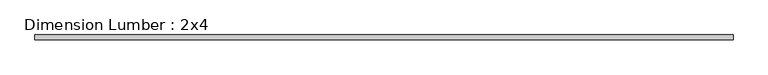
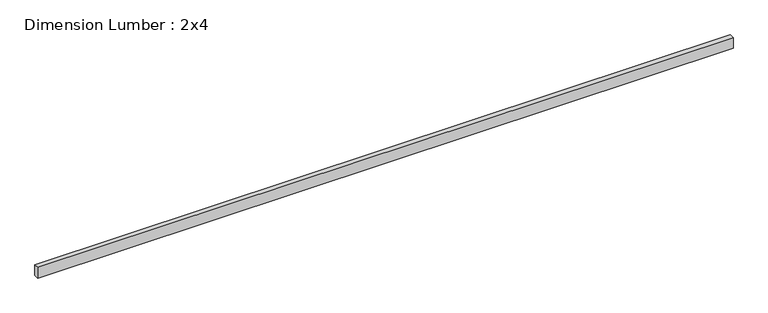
"""IFC4 building model written with IfcOpenShell, lengths in millimetres: beam geometry, Dimension Lumber : 2x4."""

from ifc_helpers import new_model, si_unit, frame, origin, place, context, project, spatial, polyline, outline, extrude, source, transform, mapped, element, save


def dimension_lumber_2x4_0db79c5e(model_context):
    return source(origin(), model_context, "Body", "SweptSolid", [
        extrude(outline(polyline([(2755.9, 19.05), (2755.9, -19.05), (-2755.9, -19.05), (-2755.9, 19.05), (2755.9, 19.05)])), frame((0.0, 0.0, -44.45), z_axis=(0.0, 0.0, 1.0), x_axis=(1.0, 0.0, 0.0)), (0.0, 0.0, 1.0), 88.9),
    ])


if __name__ == "__main__":
    model = new_model("IFC4")
    model_context = context("Model", 3, world=origin())
    ifc_project = project(units=[si_unit("LENGTHUNIT", "METRE", prefix="MILLI")], contexts=[model_context])
    site = spatial("IfcSite", under=ifc_project)
    building = spatial("IfcBuilding", under=site)
    placement = place(None, origin())
    dimension_lumber_2x4_shape = dimension_lumber_2x4_0db79c5e(model_context)
    element("IfcBeam", 1, ObjectType="Dimension Lumber : 2x4", at=placement, inside=building, context=model_context, shape_type="MappedRepresentation", body=[
        mapped(dimension_lumber_2x4_shape, transform((0.0, 0.0, 0.0), x_axis=(1.0, 0.0, 0.0), y_axis=(0.0, 1.0, 0.0), z_axis=(0.0, 0.0, 1.0))),
    ])
    save(model, "model.ifc")
